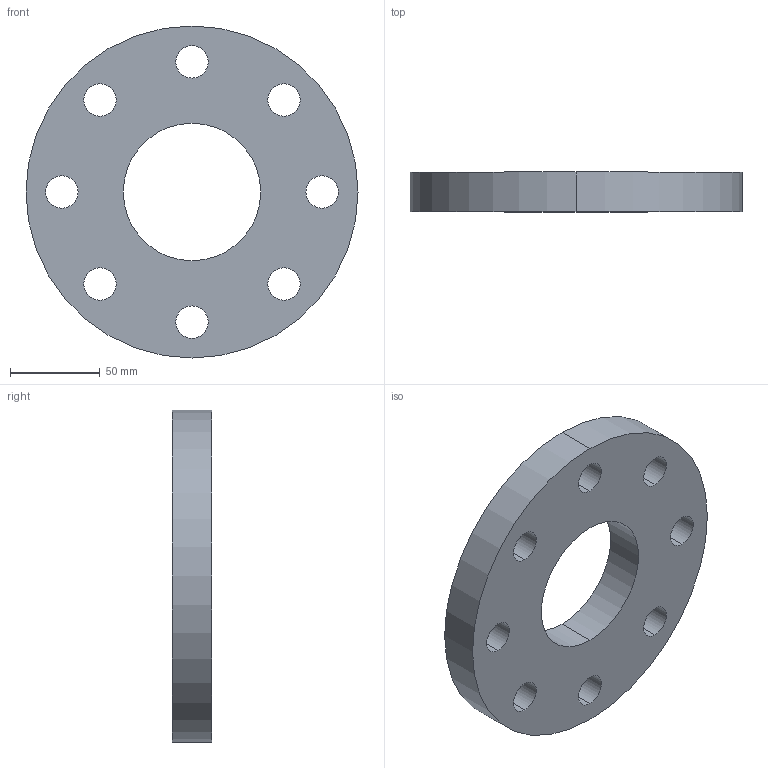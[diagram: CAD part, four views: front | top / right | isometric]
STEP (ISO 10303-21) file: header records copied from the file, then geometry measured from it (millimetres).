
FILE_DESCRIPTION (( 'STEP AP203' ), '1' );
FILE_NAME ('3D_R182-PN40_DN76.1_17623230.STEP', '2024-07-01T15:14:34', ( '' ), ( '' ), 'SwSTEP 2.0', 'SolidWorks 2024', '' );
FILE_SCHEMA (( 'CONFIG_CONTROL_DESIGN' ));
Length unit declared in the file: millimetre
Products named in the file (1): 3D_R182-PN40_DN76.1_17623230
Bounding box: 185 x 22 x 185 mm (x, y, z)
Volume: 445194.8 mm3; surface area: 68505.3 mm2
Topology: 1 solids, 1 shells, 22 faces, 60 edges, 40 vertices
Faces by surface type: cylinder 20, plane 2
Entity records: 837 total; most frequent: DIRECTION 146, CARTESIAN_POINT 123, ORIENTED_EDGE 120, AXIS2_PLACEMENT_3D 63, EDGE_CURVE 60, VERTEX_POINT 40, CIRCLE 40, EDGE_LOOP 40
